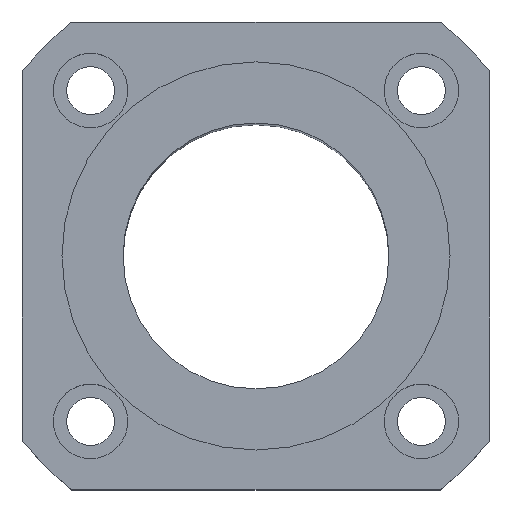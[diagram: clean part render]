
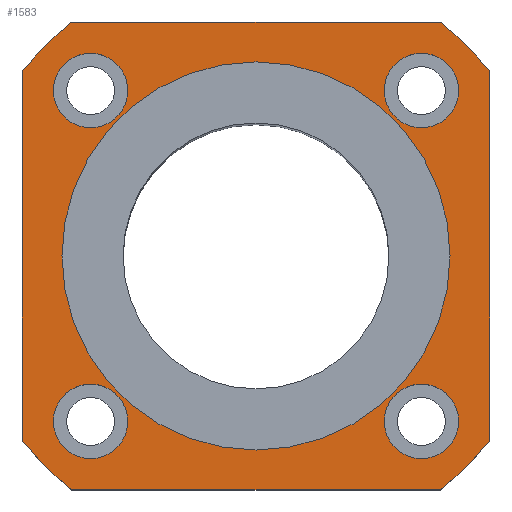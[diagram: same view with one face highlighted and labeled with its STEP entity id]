
A CAD part, top view. The second image highlights one B-rep face of the part: STEP entity #1583.
In plain terms, the highlighted planar face has unit normal (0, 0, 1).
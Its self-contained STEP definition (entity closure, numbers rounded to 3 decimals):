
#133=CARTESIAN_POINT('',(-36.5,0.,192.0));
#134=VERTEX_POINT('',#133);
#143=CARTESIAN_POINT('',(36.5,0.,192.));
#144=VERTEX_POINT('',#143);
#145=CARTESIAN_POINT('',(0.0,0.0,192.));
#146=DIRECTION('',(0.0,0.0,-1.0));
#147=DIRECTION('',(-1.0,0.0,0.0));
#148=AXIS2_PLACEMENT_3D('',#145,#146,#147);
#149=CIRCLE('',#148,36.5);
#150=EDGE_CURVE('',#144,#134,#149,.T.);
#303=CARTESIAN_POINT('',(-24.113,31.113,192.));
#304=VERTEX_POINT('',#303);
#320=CARTESIAN_POINT('',(-38.113,31.113,192.0));
#321=VERTEX_POINT('',#320);
#328=CARTESIAN_POINT('',(-31.113,31.113,192.));
#329=DIRECTION('',(0.0,0.0,-1.0));
#330=DIRECTION('',(1.0,0.0,0.0));
#331=AXIS2_PLACEMENT_3D('',#328,#329,#330);
#332=CIRCLE('',#331,7.);
#333=EDGE_CURVE('',#304,#321,#332,.T.);
#429=CARTESIAN_POINT('',(-31.113,-24.113,192.));
#430=VERTEX_POINT('',#429);
#446=CARTESIAN_POINT('',(-31.113,-38.113,192.0));
#447=VERTEX_POINT('',#446);
#454=CARTESIAN_POINT('',(-31.113,-31.113,192.));
#455=DIRECTION('',(0.0,0.0,-1.0));
#456=DIRECTION('',(0.0,1.0,0.0));
#457=AXIS2_PLACEMENT_3D('',#454,#455,#456);
#458=CIRCLE('',#457,7.);
#459=EDGE_CURVE('',#430,#447,#458,.T.);
#555=CARTESIAN_POINT('',(24.113,-31.113,192.));
#556=VERTEX_POINT('',#555);
#572=CARTESIAN_POINT('',(38.113,-31.113,192.0));
#573=VERTEX_POINT('',#572);
#580=CARTESIAN_POINT('',(31.113,-31.113,192.));
#581=DIRECTION('',(0.0,0.0,-1.0));
#582=DIRECTION('',(-1.0,0.0,0.0));
#583=AXIS2_PLACEMENT_3D('',#580,#581,#582);
#584=CIRCLE('',#583,7.);
#585=EDGE_CURVE('',#556,#573,#584,.T.);
#681=CARTESIAN_POINT('',(31.113,24.113,192.));
#682=VERTEX_POINT('',#681);
#698=CARTESIAN_POINT('',(31.113,38.113,192.0));
#699=VERTEX_POINT('',#698);
#706=CARTESIAN_POINT('',(31.113,31.113,192.));
#707=DIRECTION('',(0.0,0.0,-1.0));
#708=DIRECTION('',(0.0,-1.0,0.0));
#709=AXIS2_PLACEMENT_3D('',#706,#707,#708);
#710=CIRCLE('',#709,7.);
#711=EDGE_CURVE('',#682,#699,#710,.T.);
#769=CARTESIAN_POINT('',(31.113,31.113,192.));
#770=DIRECTION('',(0.0,0.0,-1.0));
#771=DIRECTION('',(0.0,-1.0,0.0));
#772=AXIS2_PLACEMENT_3D('',#769,#770,#771);
#773=CIRCLE('',#772,7.);
#774=EDGE_CURVE('',#699,#682,#773,.T.);
#873=CARTESIAN_POINT('',(31.113,-31.113,192.));
#874=DIRECTION('',(0.0,0.0,-1.0));
#875=DIRECTION('',(-1.0,0.0,0.0));
#876=AXIS2_PLACEMENT_3D('',#873,#874,#875);
#877=CIRCLE('',#876,7.);
#878=EDGE_CURVE('',#573,#556,#877,.T.);
#977=CARTESIAN_POINT('',(-31.113,-31.113,192.));
#978=DIRECTION('',(0.0,0.0,-1.0));
#979=DIRECTION('',(0.0,1.0,0.0));
#980=AXIS2_PLACEMENT_3D('',#977,#978,#979);
#981=CIRCLE('',#980,7.);
#982=EDGE_CURVE('',#447,#430,#981,.T.);
#1081=CARTESIAN_POINT('',(-31.113,31.113,192.));
#1082=DIRECTION('',(0.0,0.0,-1.0));
#1083=DIRECTION('',(1.0,0.0,0.0));
#1084=AXIS2_PLACEMENT_3D('',#1081,#1082,#1083);
#1085=CIRCLE('',#1084,7.);
#1086=EDGE_CURVE('',#321,#304,#1085,.T.);
#1147=CARTESIAN_POINT('',(-44.0,-34.641,192.));
#1148=VERTEX_POINT('',#1147);
#1155=CARTESIAN_POINT('',(-44.0,34.641,192.));
#1156=VERTEX_POINT('',#1155);
#1157=CARTESIAN_POINT('',(-44.0,34.641,192.));
#1158=DIRECTION('',(0.0,-1.0,0.0));
#1159=VECTOR('',#1158,69.282);
#1160=LINE('',#1157,#1159);
#1161=EDGE_CURVE('',#1156,#1148,#1160,.T.);
#1186=CARTESIAN_POINT('',(-34.641,-44.0,192.));
#1187=VERTEX_POINT('',#1186);
#1194=CARTESIAN_POINT('',(0.0,0.0,192.));
#1195=DIRECTION('',(0.0,0.0,1.0));
#1196=DIRECTION('',(1.0,0.0,0.0));
#1197=AXIS2_PLACEMENT_3D('',#1194,#1195,#1196);
#1198=CIRCLE('',#1197,56.0);
#1199=EDGE_CURVE('',#1148,#1187,#1198,.T.);
#1218=CARTESIAN_POINT('',(34.641,-44.0,192.));
#1219=VERTEX_POINT('',#1218);
#1226=CARTESIAN_POINT('',(-34.641,-44.0,192.));
#1227=DIRECTION('',(1.0,0.0,0.0));
#1228=VECTOR('',#1227,69.282);
#1229=LINE('',#1226,#1228);
#1230=EDGE_CURVE('',#1187,#1219,#1229,.T.);
#1250=CARTESIAN_POINT('',(44.0,-34.641,192.));
#1251=VERTEX_POINT('',#1250);
#1258=CARTESIAN_POINT('',(0.0,0.0,192.));
#1259=DIRECTION('',(0.0,0.0,1.0));
#1260=DIRECTION('',(1.0,0.0,0.0));
#1261=AXIS2_PLACEMENT_3D('',#1258,#1259,#1260);
#1262=CIRCLE('',#1261,56.0);
#1263=EDGE_CURVE('',#1219,#1251,#1262,.T.);
#1282=CARTESIAN_POINT('',(44.0,34.641,192.));
#1283=VERTEX_POINT('',#1282);
#1290=CARTESIAN_POINT('',(44.0,-34.641,192.));
#1291=DIRECTION('',(0.0,1.0,0.0));
#1292=VECTOR('',#1291,69.282);
#1293=LINE('',#1290,#1292);
#1294=EDGE_CURVE('',#1251,#1283,#1293,.T.);
#1314=CARTESIAN_POINT('',(34.641,44.0,192.));
#1315=VERTEX_POINT('',#1314);
#1322=CARTESIAN_POINT('',(0.0,0.0,192.));
#1323=DIRECTION('',(0.0,0.0,1.0));
#1324=DIRECTION('',(1.0,0.0,0.0));
#1325=AXIS2_PLACEMENT_3D('',#1322,#1323,#1324);
#1326=CIRCLE('',#1325,56.0);
#1327=EDGE_CURVE('',#1283,#1315,#1326,.T.);
#1346=CARTESIAN_POINT('',(-34.641,44.0,192.));
#1347=VERTEX_POINT('',#1346);
#1354=CARTESIAN_POINT('',(34.641,44.0,192.));
#1355=DIRECTION('',(-1.0,0.0,0.0));
#1356=VECTOR('',#1355,69.282);
#1357=LINE('',#1354,#1356);
#1358=EDGE_CURVE('',#1315,#1347,#1357,.T.);
#1377=CARTESIAN_POINT('',(0.0,0.0,192.));
#1378=DIRECTION('',(0.0,0.0,1.0));
#1379=DIRECTION('',(1.0,0.0,0.0));
#1380=AXIS2_PLACEMENT_3D('',#1377,#1378,#1379);
#1381=CIRCLE('',#1380,56.0);
#1382=EDGE_CURVE('',#1347,#1156,#1381,.T.);
#1502=CARTESIAN_POINT('',(0.0,0.0,192.));
#1503=DIRECTION('',(0.0,0.0,-1.0));
#1504=DIRECTION('',(-1.0,0.0,0.0));
#1505=AXIS2_PLACEMENT_3D('',#1502,#1503,#1504);
#1506=CIRCLE('',#1505,36.5);
#1507=EDGE_CURVE('',#134,#144,#1506,.T.);
#1548=CARTESIAN_POINT('',(0.0,0.0,192.));
#1549=DIRECTION('',(0.0,0.0,-1.0));
#1550=DIRECTION('',(-1.0,0.0,0.0));
#1551=AXIS2_PLACEMENT_3D('',#1548,#1549,#1550);
#1552=PLANE('',#1551);
#1553=ORIENTED_EDGE('',*,*,#1382,.T.);
#1554=ORIENTED_EDGE('',*,*,#1161,.T.);
#1555=ORIENTED_EDGE('',*,*,#1199,.T.);
#1556=ORIENTED_EDGE('',*,*,#1230,.T.);
#1557=ORIENTED_EDGE('',*,*,#1263,.T.);
#1558=ORIENTED_EDGE('',*,*,#1294,.T.);
#1559=ORIENTED_EDGE('',*,*,#1327,.T.);
#1560=ORIENTED_EDGE('',*,*,#1358,.T.);
#1561=EDGE_LOOP('',(#1553,#1554,#1555,#1556,#1557,#1558,#1559,#1560));
#1562=FACE_OUTER_BOUND('',#1561,.T.);
#1563=ORIENTED_EDGE('',*,*,#711,.T.);
#1564=ORIENTED_EDGE('',*,*,#774,.T.);
#1565=EDGE_LOOP('',(#1563,#1564));
#1566=FACE_BOUND('',#1565,.T.);
#1567=ORIENTED_EDGE('',*,*,#585,.T.);
#1568=ORIENTED_EDGE('',*,*,#878,.T.);
#1569=EDGE_LOOP('',(#1567,#1568));
#1570=FACE_BOUND('',#1569,.T.);
#1571=ORIENTED_EDGE('',*,*,#459,.T.);
#1572=ORIENTED_EDGE('',*,*,#982,.T.);
#1573=EDGE_LOOP('',(#1571,#1572));
#1574=FACE_BOUND('',#1573,.T.);
#1575=ORIENTED_EDGE('',*,*,#333,.T.);
#1576=ORIENTED_EDGE('',*,*,#1086,.T.);
#1577=EDGE_LOOP('',(#1575,#1576));
#1578=FACE_BOUND('',#1577,.T.);
#1579=ORIENTED_EDGE('',*,*,#150,.T.);
#1580=ORIENTED_EDGE('',*,*,#1507,.T.);
#1581=EDGE_LOOP('',(#1579,#1580));
#1582=FACE_BOUND('',#1581,.T.);
#1583=ADVANCED_FACE('',(#1562,#1566,#1570,#1574,#1578,#1582),#1552,.F.);
